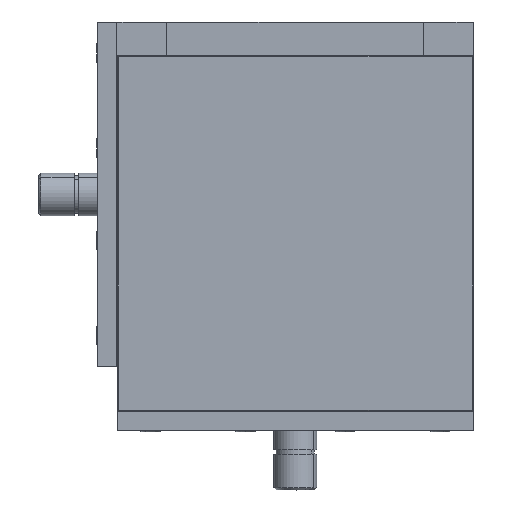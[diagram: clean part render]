
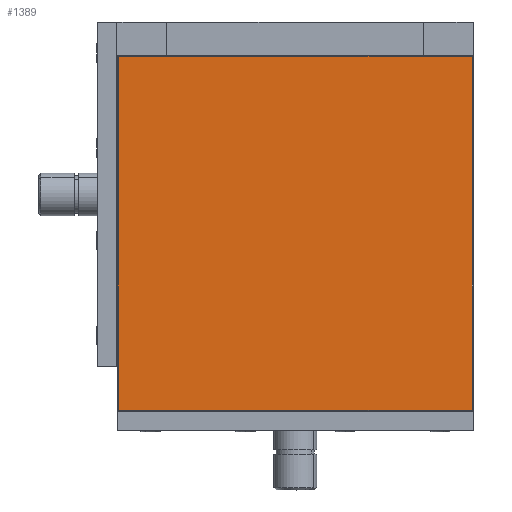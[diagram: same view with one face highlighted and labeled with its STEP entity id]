
A CAD part, top view. The second image highlights one B-rep face of the part: STEP entity #1389.
In plain terms, the highlighted planar face has unit normal (0, 0, 1).
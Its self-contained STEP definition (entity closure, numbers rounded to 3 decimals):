
#1389=ADVANCED_FACE('NONE',(#2811),#2812,.F.);
#2811=FACE_OUTER_BOUND('',#4339,.T.);
#2812=PLANE('',#4340);
#4339=EDGE_LOOP('',(#7725,#7726,#7727,#7728));
#4340=AXIS2_PLACEMENT_3D('',#7729,#7730,#7731);
#7725=ORIENTED_EDGE('',*,*,#9565,.T.);
#7726=ORIENTED_EDGE('',*,*,#9583,.T.);
#7727=ORIENTED_EDGE('',*,*,#9585,.T.);
#7728=ORIENTED_EDGE('',*,*,#9579,.T.);
#7729=CARTESIAN_POINT('',(150.0,0.,25.));
#7730=DIRECTION('',(0.,0.,-1.0));
#7731=DIRECTION('',(0.,1.0,0.));
#9565=EDGE_CURVE('NONE',#11551,#11556,#11558,.T.);
#9579=EDGE_CURVE('NONE',#11579,#11551,#11582,.T.);
#9583=EDGE_CURVE('NONE',#11556,#11586,#11588,.T.);
#9585=EDGE_CURVE('NONE',#11586,#11579,#11590,.T.);
#11551=VERTEX_POINT('NONE',#14634);
#11556=VERTEX_POINT('NONE',#14641);
#11558=LINE('',#14644,#14645);
#11579=VERTEX_POINT('NONE',#14675);
#11582=LINE('',#14680,#14681);
#11586=VERTEX_POINT('NONE',#14686);
#11588=LINE('',#14689,#14690);
#11590=LINE('',#14692,#14693);
#14634=CARTESIAN_POINT('',(0.5,0.5,25.));
#14641=CARTESIAN_POINT('',(149.5,0.5,25.));
#14644=CARTESIAN_POINT('',(150.0,0.5,25.));
#14645=VECTOR('',#16505,1000.0);
#14675=CARTESIAN_POINT('',(0.5,149.5,25.));
#14680=CARTESIAN_POINT('',(0.5,0.,25.));
#14681=VECTOR('',#16517,1000.0);
#14686=CARTESIAN_POINT('',(149.5,149.5,25.));
#14689=CARTESIAN_POINT('',(149.5,0.,25.));
#14690=VECTOR('',#16520,1000.0);
#14692=CARTESIAN_POINT('',(150.0,149.5,25.));
#14693=VECTOR('',#16521,1000.0);
#16505=DIRECTION('',(1.0,0.,0.));
#16517=DIRECTION('',(0.,-1.0,0.));
#16520=DIRECTION('',(0.,1.0,0.));
#16521=DIRECTION('',(-1.0,0.,0.));
